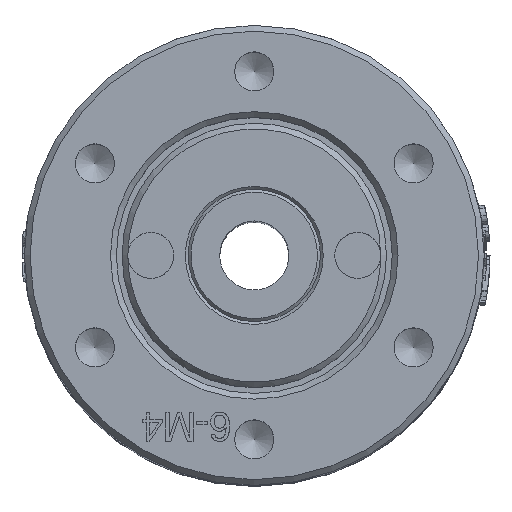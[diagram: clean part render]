
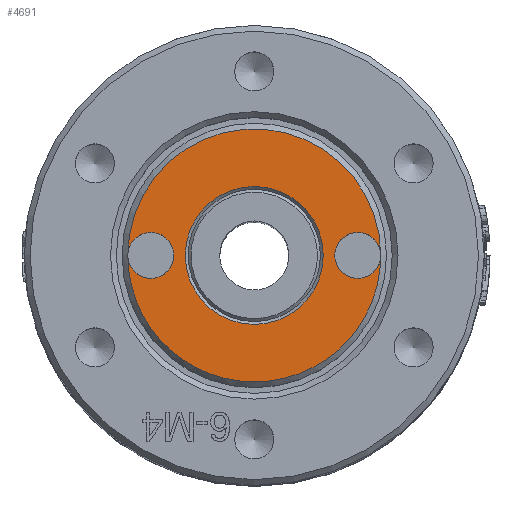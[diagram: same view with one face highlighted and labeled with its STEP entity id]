
A CAD part, top view. The second image highlights one B-rep face of the part: STEP entity #4691.
In plain terms, the highlighted planar face has unit normal (0, 0, 1).
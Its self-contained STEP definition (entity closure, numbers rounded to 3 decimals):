
#327=FACE_BOUND('',#7351,.T.);
#328=FACE_BOUND('',#7352,.T.);
#1583=PLANE('',#24747);
#4691=ADVANCED_FACE('',(#327,#328),#1583,.T.);
#7351=EDGE_LOOP('',(#15654,#15655,#15656,#15657));
#7352=EDGE_LOOP('',(#15658));
#15654=ORIENTED_EDGE('',*,*,#23149,.T.);
#15655=ORIENTED_EDGE('',*,*,#23147,.T.);
#15656=ORIENTED_EDGE('',*,*,#23148,.T.);
#15657=ORIENTED_EDGE('',*,*,#23146,.T.);
#15658=ORIENTED_EDGE('',*,*,#23151,.T.);
#19888=VERTEX_POINT('',#46095);
#19889=VERTEX_POINT('',#46098);
#19891=VERTEX_POINT('',#46106);
#23146=EDGE_CURVE('',#19888,#19888,#23950,.T.);
#23147=EDGE_CURVE('',#19889,#19889,#23951,.T.);
#23148=EDGE_CURVE('',#19889,#19888,#23952,.T.);
#23149=EDGE_CURVE('',#19888,#19889,#23953,.T.);
#23151=EDGE_CURVE('',#19891,#19891,#23955,.T.);
#23950=CIRCLE('',#24738,2.);
#23951=CIRCLE('',#24740,2.);
#23952=CIRCLE('',#24742,11.);
#23953=CIRCLE('',#24743,11.);
#23955=CIRCLE('',#24746,6.);
#24738=AXIS2_PLACEMENT_3D('',#46094,#27455,#27456);
#24740=AXIS2_PLACEMENT_3D('',#46097,#27459,#27460);
#24742=AXIS2_PLACEMENT_3D('',#46100,#27463,#27464);
#24743=AXIS2_PLACEMENT_3D('',#46101,#27465,#27466);
#24746=AXIS2_PLACEMENT_3D('',#46105,#27471,#27472);
#24747=AXIS2_PLACEMENT_3D('',#46107,#27473,#27474);
#27455=DIRECTION('',(0.,0.,-1.));
#27456=DIRECTION('',(1.,0.,0.));
#27459=DIRECTION('',(0.,0.,-1.));
#27460=DIRECTION('',(1.,0.,0.));
#27463=DIRECTION('',(0.,0.,1.));
#27464=DIRECTION('',(1.,0.,0.));
#27465=DIRECTION('',(0.,0.,1.));
#27466=DIRECTION('',(1.,0.,0.));
#27471=DIRECTION('',(0.,0.,-1.));
#27472=DIRECTION('',(1.,0.,0.));
#27473=DIRECTION('',(0.,0.,1.));
#27474=DIRECTION('',(1.,0.,0.));
#46094=CARTESIAN_POINT('',(-9.,0.,72.5));
#46095=CARTESIAN_POINT('',(-11.,0.,72.5));
#46097=CARTESIAN_POINT('',(9.,0.,72.5));
#46098=CARTESIAN_POINT('',(11.,0.,72.5));
#46100=CARTESIAN_POINT('',(0.,0.,72.5));
#46101=CARTESIAN_POINT('',(0.,0.,72.5));
#46105=CARTESIAN_POINT('',(0.,0.,72.5));
#46106=CARTESIAN_POINT('',(6.,0.,72.5));
#46107=CARTESIAN_POINT('',(0.,0.,72.5));
